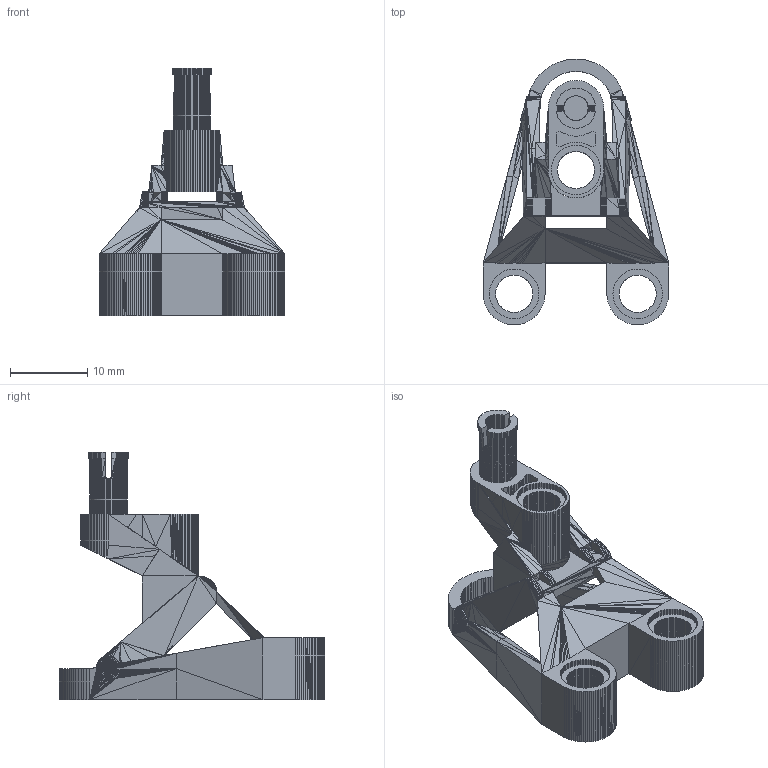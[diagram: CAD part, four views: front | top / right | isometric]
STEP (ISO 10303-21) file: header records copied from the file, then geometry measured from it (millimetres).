
FILE_DESCRIPTION(('Open CASCADE Model'),'2;1');
FILE_NAME('Open CASCADE Shape Model','2026-10-27T11:12:05',('Author'),( 'Open CASCADE'),'Open CASCADE STEP processor 7.9','Open CASCADE 7.9' ,'Unknown');
FILE_SCHEMA(('AUTOMOTIVE_DESIGN { 1 0 10303 214 1 1 1 1 }'));
Products named in the file (1): Open CASCADE STEP translator 7.9 1
Bounding box: 24 x 34.4 x 31.99 mm (x, y, z)
Volume: 2153.9 mm3; surface area: 3779 mm2
Topology: 1 solids, 5 shells, 8892 faces, 16807 edges, 7745 vertices
Faces by surface type: plane 8892
Entity records: 422860 total; most frequent: DIRECTION 68207, CARTESIAN_POINT 67068, LINE 50421, VECTOR 50421, ORIENTED_EDGE 33614, PCURVE 33614, DEFINITIONAL_REPRESENTATION 33614, EDGE_CURVE 16807
